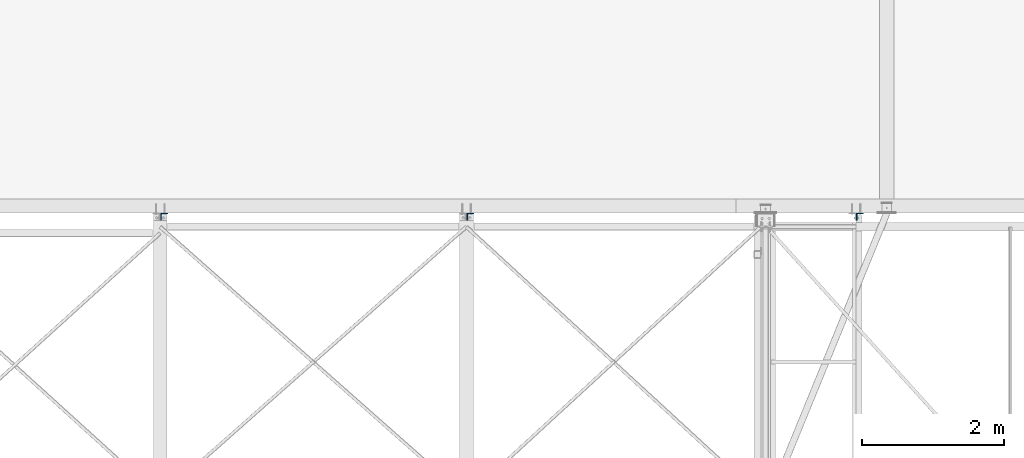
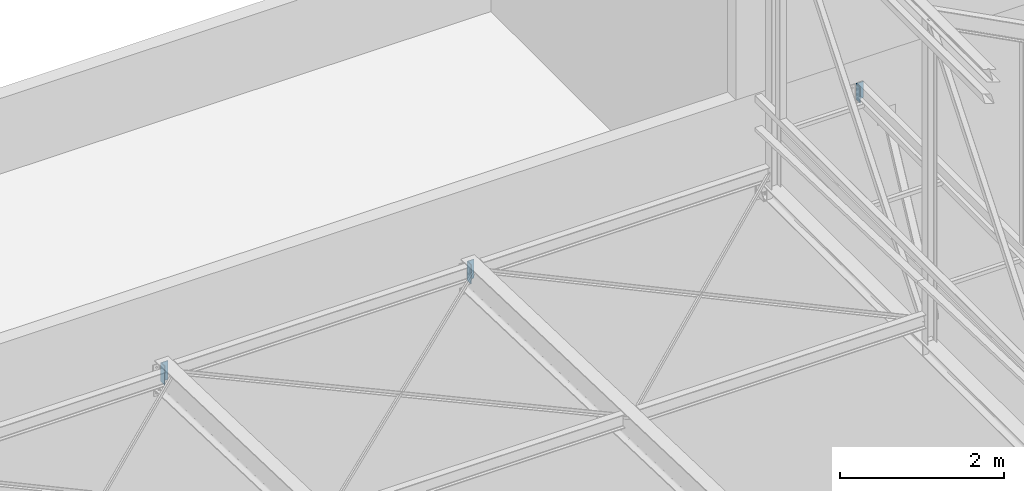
# One storey, part 44 of 123: 3 beams, 3 elements without a shape of their own.
"""IFC2X3 building model written with IfcOpenShell, lengths in millimetres."""

from ifc_helpers import new_model, si_unit, frame, origin_with_axes, origin_2d_with_axis, place, context, subcontext, project, spatial, l_section, extrude, material, type_object, element, aggregate, save


model = new_model("IFC2X3")

# Units and contexts
model_context = context("Model", 3, precision=1e-05, world=origin_with_axes())
body_context = subcontext(model_context, "Body", "Model", "MODEL_VIEW")
ifc_project = project(units=[si_unit("LENGTHUNIT", "METRE", prefix="MILLI"), si_unit("AREAUNIT", "SQUARE_METRE"), si_unit("VOLUMEUNIT", "CUBIC_METRE"), si_unit("MASSUNIT", "GRAM", prefix="KILO"), si_unit("TIMEUNIT", "SECOND"), si_unit("PLANEANGLEUNIT", "RADIAN"), si_unit("SOLIDANGLEUNIT", "STERADIAN"), si_unit("THERMODYNAMICTEMPERATUREUNIT", "DEGREE_CELSIUS"), si_unit("LUMINOUSINTENSITYUNIT", "LUMEN")], contexts=[model_context])

# Site, building, storey
site_placement = place(None, origin_with_axes())
site = spatial("IfcSite", under=ifc_project, at=site_placement, Name="Undefined", CompositionType="ELEMENT")
building_placement = place(site_placement, origin_with_axes())
building = spatial("IfcBuilding", under=site, at=building_placement, Name="Undefined", CompositionType="ELEMENT")
storey_placement = place(building_placement, origin_with_axes())
storey = spatial("IfcBuildingStorey", under=building, at=storey_placement, Name="Undefined", CompositionType="ELEMENT", Elevation=0.0)

# Assembly, beam
assembly_1_placement = place(storey_placement, origin_with_axes())
assembly_1 = element("IfcElementAssembly", 1, at=assembly_1_placement, inside=storey, Name="Steel Assembly", AssemblyPlace="NOTDEFINED", PredefinedType="RIGID_FRAME")
ifc_material = material(Name="STEEL/S235-E24")
beam_type = type_object("IfcBeamType", Name="L100*10", PredefinedType="NOTDEFINED")
beam_1_placement = place(assembly_1_placement, frame((8535.0, 15340.0, 7483.28139518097), z_axis=(1.0, 0.0, 0.0), x_axis=(0.0, 0.0, -1.0)))
beam_1 = element("IfcBeam", 2, at=beam_1_placement, type_object=beam_type, material=ifc_material, Name="ATTACHE", ObjectType="L100*10", context=body_context, shape_type="SweptSolid", body=[
    extrude(l_section(Depth=100.0, Width=100.0, Thickness=10.0, FilletRadius=12.0, EdgeRadius=6.0, at=origin_2d_with_axis()), frame((280.0, 0.0, 0.0), z_axis=(-1.0, 0.0, 0.0), x_axis=(0.0, -1.0, 0.0)), (0.0, 0.0, 1.0), 280.0),
])
aggregate(assembly_1, [beam_1])

assembly_2_placement = place(storey_placement, origin_with_axes())
assembly_2 = element("IfcElementAssembly", 3, at=assembly_2_placement, inside=storey, Name="Steel Assembly", AssemblyPlace="NOTDEFINED", PredefinedType="RIGID_FRAME")
beam_2_placement = place(assembly_2_placement, frame((14002.4998855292, 15339.9999998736, 8210.00437164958), z_axis=(1.0, 0.0, 0.0), x_axis=(0.0, 0.0, -1.0)))
beam_2 = element("IfcBeam", 4, at=beam_2_placement, type_object=beam_type, material=ifc_material, Name="ATTACHE", ObjectType="L100*10", context=body_context, shape_type="SweptSolid", body=[
    extrude(l_section(Depth=100.0, Width=100.0, Thickness=10.0, FilletRadius=12.0, EdgeRadius=6.0, at=origin_2d_with_axis()), frame((240.0, 0.0, 0.0), z_axis=(-1.0, 0.0, 0.0), x_axis=(0.0, -1.0, 0.0)), (0.0, 0.0, 1.0), 240.0),
])
aggregate(assembly_2, [beam_2])

assembly_3_placement = place(storey_placement, origin_with_axes())
assembly_3 = element("IfcElementAssembly", 5, at=assembly_3_placement, inside=storey, Name="Steel Assembly", AssemblyPlace="NOTDEFINED", PredefinedType="RIGID_FRAME")
beam_3_placement = place(assembly_3_placement, frame((4235.0, 15340.0, 7483.28139518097), z_axis=(1.0, 0.0, 0.0), x_axis=(0.0, 0.0, -1.0)))
beam_3 = element("IfcBeam", 6, at=beam_3_placement, type_object=beam_type, material=ifc_material, Name="ATTACHE", ObjectType="L100*10", context=body_context, shape_type="SweptSolid", body=[
    extrude(l_section(Depth=100.0, Width=100.0, Thickness=10.0, FilletRadius=12.0, EdgeRadius=6.0, at=origin_2d_with_axis()), frame((280.0, 0.0, 0.0), z_axis=(-1.0, 0.0, 0.0), x_axis=(0.0, -1.0, 0.0)), (0.0, 0.0, 1.0), 280.0),
])
aggregate(assembly_3, [beam_3])

save(model, "model.ifc")
